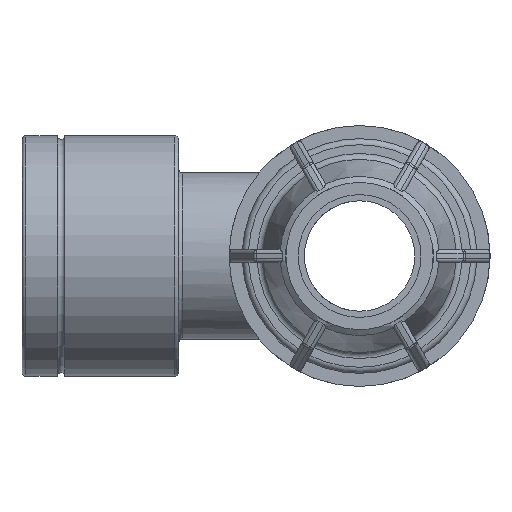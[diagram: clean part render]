
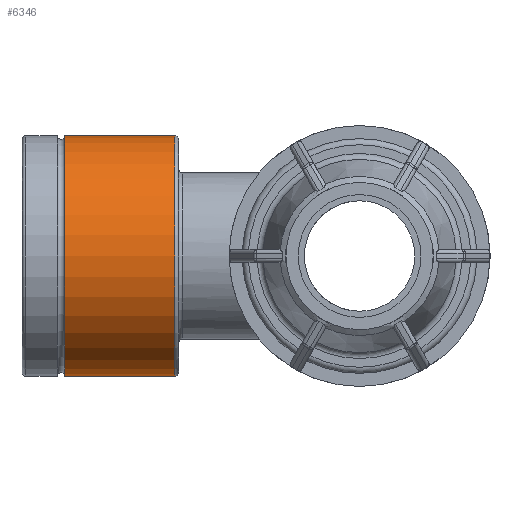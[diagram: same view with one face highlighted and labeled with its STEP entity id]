
A CAD part, left-side view. The second image highlights one B-rep face of the part: STEP entity #6346.
In plain terms, the highlighted cylindrical face has radius 15.676 mm (diameter 31.352 mm), a full revolution.
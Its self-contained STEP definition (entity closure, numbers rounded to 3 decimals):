
#419=CYLINDRICAL_SURFACE('',#7108,15.676);
#458=FACE_BOUND('',#1344,.T.);
#892=FACE_OUTER_BOUND('',#1343,.T.);
#1343=EDGE_LOOP('',(#5721));
#1344=EDGE_LOOP('',(#5722));
#2427=CIRCLE('',#7105,15.676);
#2429=CIRCLE('',#7109,15.676);
#2973=VERTEX_POINT('',#12194);
#2975=VERTEX_POINT('',#12200);
#3893=EDGE_CURVE('',#2973,#2973,#2427,.T.);
#3895=EDGE_CURVE('',#2975,#2975,#2429,.T.);
#5721=ORIENTED_EDGE('',*,*,#3895,.F.);
#5722=ORIENTED_EDGE('',*,*,#3893,.F.);
#6346=ADVANCED_FACE('',(#892,#458),#419,.T.);
#7105=AXIS2_PLACEMENT_3D('',#12195,#8984,#8985);
#7108=AXIS2_PLACEMENT_3D('',#12199,#8990,#8991);
#7109=AXIS2_PLACEMENT_3D('',#12201,#8992,#8993);
#8984=DIRECTION('center_axis',(0.,-1.,0.));
#8985=DIRECTION('ref_axis',(1.,0.,0.));
#8990=DIRECTION('center_axis',(0.,1.,0.));
#8991=DIRECTION('ref_axis',(-1.,0.,0.));
#8992=DIRECTION('center_axis',(0.,1.,0.));
#8993=DIRECTION('ref_axis',(1.,0.,0.));
#12194=CARTESIAN_POINT('',(-15.676,24.08,0.));
#12195=CARTESIAN_POINT('Origin',(0.,24.08,0.));
#12199=CARTESIAN_POINT('Origin',(0.,31.009,0.));
#12200=CARTESIAN_POINT('',(-15.676,38.418,0.));
#12201=CARTESIAN_POINT('Origin',(0.,38.418,0.));
